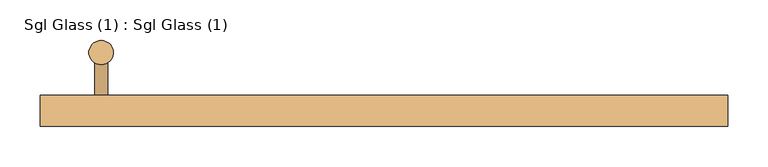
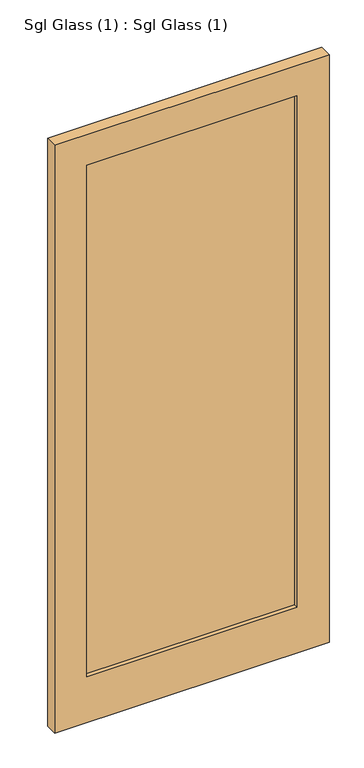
"""IFC4 building model written with IfcOpenShell, lengths in millimetres: door geometry, Sgl Glass (1) : Sgl Glass (1)."""

from ifc_helpers import new_model, si_unit, point, frame, frame_2d, origin, place, context, project, spatial, polyline, circle_curve, trimmed, segment, composite_curve, outline, extrude, source, transform, mapped, element, save


def sgl_glass_1_sgl_glass_1_a7b072f2(model_context):
    return source(origin(), model_context, "Body", "SweptSolid", [
        extrude(outline(polyline([(324.9999999, 50.0), (324.9999999, 38.0), (-324.9999999, 38.0), (-324.9999999, 50.0), (324.9999999, 50.0)])), frame((0.0, 0.0, 150.0), z_axis=(0.0, 0.0, 1.0), x_axis=(1.0, 0.0, 0.0)), (0.0, 0.0, 1.0), 1675.0),
        extrude(outline(composite_curve([segment(trimmed(circle_curve(frame_2d((-349.9999999, 116.0)), 15.0), [point((-349.9999999, 101.0))], [point((-349.9999999, 131.0))], False, "CARTESIAN"), True, "CONTINUOUS"), segment(trimmed(circle_curve(frame_2d((-349.9999999, 116.0)), 15.0), [point((-349.9999999, 131.0))], [point((-349.9999999, 101.0))], False, "CARTESIAN"), True, "CONTINUOUS")], self_intersect=False)), frame((0.0, 0.0, 650.0), z_axis=(0.0, 0.0, 1.0), x_axis=(1.0, 0.0, 0.0)), (0.0, 0.0, 1.0), 900.0),
        extrude(outline(composite_curve([segment(trimmed(circle_curve(frame_2d((750.0, -349.9999999)), 8.0), [point((750.0, -341.9999999))], [point((750.0, -357.9999999))], False, "CARTESIAN"), True, "CONTINUOUS"), segment(trimmed(circle_curve(frame_2d((750.0, -349.9999999)), 8.0), [point((750.0, -357.9999999))], [point((750.0, -341.9999999))], False, "CARTESIAN"), True, "CONTINUOUS")], self_intersect=False)), frame((0.0, 63.0, 0.0), z_axis=(0.0, 1.0, 0.0), x_axis=(0.0, 0.0, 1.0)), (0.0, 0.0, 1.0), 53.0),
        extrude(outline(composite_curve([segment(trimmed(circle_curve(frame_2d((1450.0, -349.9999999)), 8.0), [point((1450.0, -341.9999999))], [point((1450.0, -357.9999999))], False, "CARTESIAN"), True, "CONTINUOUS"), segment(trimmed(circle_curve(frame_2d((1450.0, -349.9999999)), 8.0), [point((1450.0, -357.9999999))], [point((1450.0, -341.9999999))], False, "CARTESIAN"), True, "CONTINUOUS")], self_intersect=False)), frame((0.0, 63.0, 0.0), z_axis=(0.0, 1.0, 0.0), x_axis=(0.0, 0.0, 1.0)), (0.0, 0.0, 1.0), 53.0),
        extrude(outline(polyline([(0.0, -424.9999999), (0.0, 424.9999999), (1925.0, 424.9999999), (1925.0, -424.9999999), (0.0, -424.9999999)]), holes=[polyline([(1825.0, 324.9999999), (150.0, 324.9999999), (150.0, -324.9999999), (1825.0, -324.9999999), (1825.0, 324.9999999)])]), frame((0.0, 25.0, 0.0), z_axis=(0.0, 1.0, 0.0), x_axis=(0.0, 0.0, 1.0)), (0.0, 0.0, 1.0), 38.0),
    ])


if __name__ == "__main__":
    model = new_model("IFC4")
    model_context = context("Model", 3, world=origin())
    ifc_project = project(units=[si_unit("LENGTHUNIT", "METRE", prefix="MILLI")], contexts=[model_context])
    site = spatial("IfcSite", under=ifc_project)
    building = spatial("IfcBuilding", under=site)
    placement = place(None, origin())
    sgl_glass_1_sgl_glass_1_shape = sgl_glass_1_sgl_glass_1_a7b072f2(model_context)
    element("IfcDoor", 1, ObjectType="Sgl Glass (1) : Sgl Glass (1)", at=placement, inside=building, context=model_context, shape_type="MappedRepresentation", body=[
        mapped(sgl_glass_1_sgl_glass_1_shape, transform((0.0, 0.0, 0.0), x_axis=(1.0, 0.0, 0.0), y_axis=(0.0, 1.0, 0.0), z_axis=(0.0, 0.0, 1.0))),
    ])
    save(model, "model.ifc")
